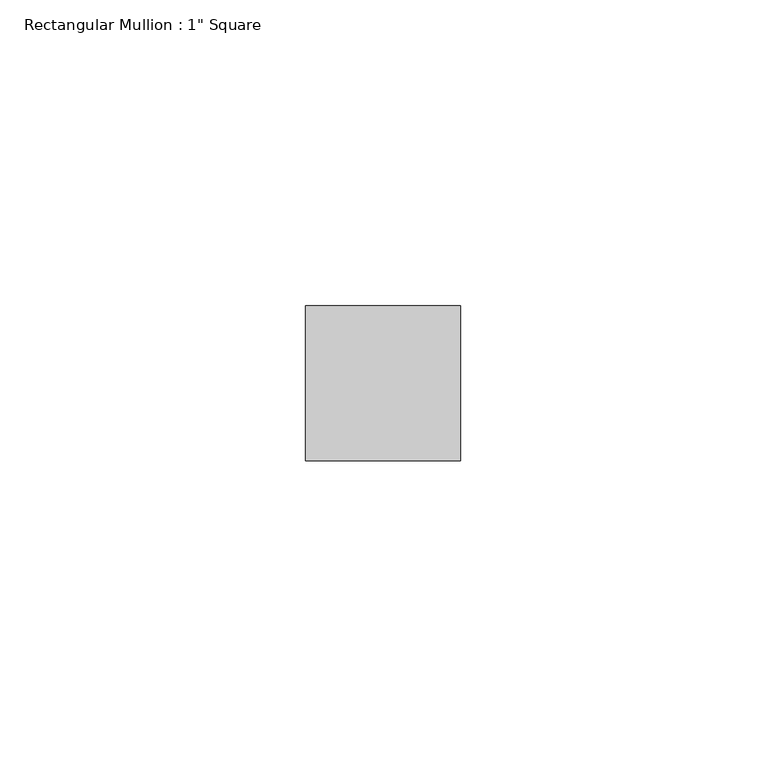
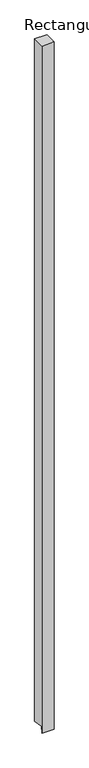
"""IFC4 building model written with IfcOpenShell, lengths in millimetres: member geometry."""

import ifcopenshell
import ifcopenshell.guid

model = None  # the IFC model being written
_history = None  # IfcOwnerHistory: only IFC2X3 demands one
_inside = {}  # id of a spatial element -> (the spatial element, [elements in it])
_under = {}  # id of a project, library or spatial element -> (it, [spatial elements below it])
_declared = {}  # id of a project -> (the project, [libraries it declares])
_typed = {}  # id of a type object -> (the type object, [elements of that type])
_made_of = {}  # id of a material, layer set ... -> (it, [elements and type objects made of it])


def new_model(schema):
    """Start an empty IFC model of exactly this schema.

    Asked for "IFC4X3", IfcOpenShell would pick the latest addendum, in which some entities
    have other attributes; the version numbers below select the first issue.
    IFC2X3 requires an IfcOwnerHistory on every rooted entity: one is made here for all.
    """
    global model, _history
    if schema == "IFC4X3":
        model = ifcopenshell.file(schema_version=(4, 3, 0, 0))
    else:
        model = ifcopenshell.file(schema=schema)
    _inside.clear()
    _under.clear()
    _declared.clear()
    _typed.clear()
    _made_of.clear()
    _history = None
    if model.schema == "IFC2X3":
        org = make("IfcOrganization", Name="unknown")
        user = make(
            "IfcPersonAndOrganization",
            ThePerson=make("IfcPerson", FamilyName="unknown"),
            TheOrganization=org,
        )
        app = make(
            "IfcApplication",
            ApplicationDeveloper=org,
            Version="unknown",
            ApplicationFullName="unknown",
            ApplicationIdentifier="unknown",
        )
        _history = make(
            "IfcOwnerHistory",
            OwningUser=user,
            OwningApplication=app,
            ChangeAction="ADDED",
            CreationDate=0,
        )
    return model


def make(cls, **values):
    """One entity of the class cls with the attributes given. An attribute that is None is left unset."""
    return model.create_entity(
        cls, **{name: value for name, value in values.items() if value is not None}
    )


def rooted(cls, **values):
    """An entity with a GlobalId (a new one), such as an element, a storey or a relation."""
    return make(cls, GlobalId=ifcopenshell.guid.new(), OwnerHistory=_history, **values)


def si_unit(unit_type, name, prefix=None):
    """IfcSIUnit, for example si_unit("LENGTHUNIT", "METRE", prefix="MILLI")."""
    return make("IfcSIUnit", UnitType=unit_type, Prefix=prefix, Name=name)


def assignment(units):
    """IfcUnitAssignment: the units of a project."""
    return None if units is None else make("IfcUnitAssignment", Units=units)


def point(xyz):
    """IfcCartesianPoint."""
    return None if xyz is None else make("IfcCartesianPoint", Coordinates=xyz)


def direction(xyz):
    """IfcDirection."""
    return None if xyz is None else make("IfcDirection", DirectionRatios=xyz)


def frame(location, z_axis=None, x_axis=None):
    """IfcAxis2Placement3D, a coordinate frame: its origin and axes. An axis left out is left unset."""
    return make(
        "IfcAxis2Placement3D",
        Location=point(location),
        Axis=direction(z_axis),
        RefDirection=direction(x_axis),
    )


def origin():
    """The frame at (0, 0, 0) with its axes left unset."""
    return frame((0.0, 0.0, 0.0))


def place(relative_to, where):
    """IfcLocalPlacement: puts the frame where relative to a parent placement (None: the world)."""
    return make(
        "IfcLocalPlacement", PlacementRelTo=relative_to, RelativePlacement=where
    )


def context(
    kind, dimensions, precision=None, world=None, true_north=None, identifier=None
):
    """IfcGeometricRepresentationContext, for example the 3D "Model" context."""
    return make(
        "IfcGeometricRepresentationContext",
        ContextIdentifier=identifier,
        ContextType=kind,
        CoordinateSpaceDimension=dimensions,
        Precision=precision,
        WorldCoordinateSystem=world,
        TrueNorth=true_north,
    )


def project(units=None, contexts=None):
    """IfcProject with its units and contexts."""
    return rooted(
        "IfcProject",
        Name="project",
        RepresentationContexts=contexts,
        UnitsInContext=assignment(units),
    )


def spatial(cls, under=None, at=None, **own):
    """A site, building, storey or space (cls), placed at a placement, below another one or the project."""
    s = rooted(cls, ObjectPlacement=at, **own)
    if under is not None:
        _under.setdefault(under.id(), (under, []))[1].append(s)
    return s


def polyline(points):
    """IfcPolyline through the points."""
    return make("IfcPolyline", Points=[point(p) for p in points])


def outline(outer, holes=None, kind="AREA"):
    """IfcArbitraryClosedProfileDef: a profile drawn as a closed curve; with holes, ...WithVoids."""
    if holes is None:
        return make("IfcArbitraryClosedProfileDef", ProfileType=kind, OuterCurve=outer)
    return make(
        "IfcArbitraryProfileDefWithVoids",
        ProfileType=kind,
        OuterCurve=outer,
        InnerCurves=holes,
    )


def extrude(swept, where, along, depth):
    """IfcExtrudedAreaSolid: the profile swept, set in the frame where, extruded along a direction by depth."""
    return make(
        "IfcExtrudedAreaSolid",
        SweptArea=swept,
        Position=where,
        ExtrudedDirection=direction(along),
        Depth=depth,
    )


def shape(context_of_items, identifier, shape_type, items):
    """IfcShapeRepresentation: the items that make up one representation, for example the "Body"."""
    return make(
        "IfcShapeRepresentation",
        ContextOfItems=context_of_items,
        RepresentationIdentifier=identifier,
        RepresentationType=shape_type,
        Items=items,
    )


def source(mapping_origin, context_of_items, identifier, shape_type, items):
    """IfcRepresentationMap: a shape defined once, which mapped items show again and again."""
    return make(
        "IfcRepresentationMap",
        MappingOrigin=mapping_origin,
        MappedRepresentation=shape(context_of_items, identifier, shape_type, items),
    )


def transform(
    local_origin,
    x_axis=None,
    y_axis=None,
    z_axis=None,
    scale=None,
    scale2=None,
    scale3=None,
    uniform=True,
):
    """IfcCartesianTransformationOperator3D, or its non-uniform kind. x_axis, y_axis, z_axis: its Axis1, 2, 3."""
    if uniform:
        return make(
            "IfcCartesianTransformationOperator3D",
            Axis1=direction(x_axis),
            Axis2=direction(y_axis),
            LocalOrigin=point(local_origin),
            Scale=scale,
            Axis3=direction(z_axis),
        )
    return make(
        "IfcCartesianTransformationOperator3DnonUniform",
        Axis1=direction(x_axis),
        Axis2=direction(y_axis),
        LocalOrigin=point(local_origin),
        Scale=scale,
        Axis3=direction(z_axis),
        Scale2=scale2,
        Scale3=scale3,
    )


def mapped(mapping_source, mapping_target):
    """IfcMappedItem: shows the shape of a source again, moved by a transform."""
    return make(
        "IfcMappedItem", MappingSource=mapping_source, MappingTarget=mapping_target
    )


def made_of(thing, what):
    """Note that an element or type object is made of a material, layer set ...; save() writes the relation."""
    if what is not None:
        _made_of.setdefault(what.id(), (what, []))[1].append(thing)
    return thing


def element(
    cls,
    number,
    at=None,
    inside=None,
    cuts=None,
    type_object=None,
    material=None,
    context=None,
    identifier="Body",
    shape_type=None,
    held_by="IfcProductDefinitionShape",
    body=None,
    shapes=None,
    **own,
):
    """One element of the class cls, such as IfcWall. Its Tag is "e" and its number.

    at: its placement. inside: the storey or other place that contains it. cuts: it is an
    opening in that element (IfcRelVoidsElement). A single representation is given by context,
    identifier, shape_type and body (its items); several are given by shapes. held_by: the class
    of the entity that holds the representations. save() writes the other relations.
    """
    e = rooted(cls, Tag="e%d" % number, ObjectPlacement=at, **own)
    if body is not None:
        shapes = [shape(context, identifier, shape_type, body)]
    if shapes is not None:
        e.Representation = make(held_by, Representations=shapes)
    if inside is not None:
        _inside.setdefault(inside.id(), (inside, []))[1].append(e)
    if cuts is not None:
        rooted(
            "IfcRelVoidsElement", RelatingBuildingElement=cuts, RelatedOpeningElement=e
        )
    if type_object is not None:
        _typed.setdefault(type_object.id(), (type_object, []))[1].append(e)
    return made_of(e, material)


def aggregate(whole, parts):
    """IfcRelAggregates: a whole, such as a stair, and the parts it consists of."""
    return rooted("IfcRelAggregates", RelatingObject=whole, RelatedObjects=parts)


def save(model, path):
    """Write the relations noted so far, then the file.

    IfcRelAggregates (storeys below a building ...), IfcRelContainedInSpatialStructure (elements
    in a storey), IfcRelDefinesByType, IfcRelAssociatesMaterial and IfcRelDeclares: one each for
    every whole, place, type object, material and project.
    """
    for whole, parts in _under.values():
        aggregate(whole, parts)
    for where, things in _inside.values():
        rooted(
            "IfcRelContainedInSpatialStructure",
            RelatedElements=things,
            RelatingStructure=where,
        )
    for kind, things in _typed.values():
        rooted("IfcRelDefinesByType", RelatedObjects=things, RelatingType=kind)
    for what, things in _made_of.values():
        rooted("IfcRelAssociatesMaterial", RelatedObjects=things, RelatingMaterial=what)
    for by, libraries in _declared.values():
        rooted("IfcRelDeclares", RelatingContext=by, RelatedDefinitions=libraries)
    model.write(path)


def member_c999597c(model_context):
    return source(origin(), model_context, "Body", "SweptSolid", [
        extrude(outline(polyline([(-12.7, 0.0), (12.7, 0.0), (12.7, -1487.3996588), (-11.0128906, -1484.4121154), (-12.7, -1497.803131), (-12.7, 0.0)])), frame((-25.4, 0.0, 0.0), z_axis=(1.0, 0.0, 0.0), x_axis=(0.0, 1.0, 0.0)), (0.0, 0.0, 1.0), 25.4),
    ])


if __name__ == "__main__":
    model = new_model("IFC4")
    model_context = context("Model", 3, world=origin())
    ifc_project = project(units=[si_unit("LENGTHUNIT", "METRE", prefix="MILLI")], contexts=[model_context])
    site = spatial("IfcSite", under=ifc_project)
    building = spatial("IfcBuilding", under=site)
    placement = place(None, origin())
    member_shape = member_c999597c(model_context)
    element("IfcMember", 1, ObjectType="Rectangular Mullion : 1\" Square", at=placement, inside=building, context=model_context, shape_type="MappedRepresentation", body=[
        mapped(member_shape, transform((0.0, 0.0, 0.0), x_axis=(1.0, 0.0, 0.0), y_axis=(0.0, 1.0, 0.0), z_axis=(0.0, 0.0, 1.0))),
    ])
    save(model, "model.ifc")
